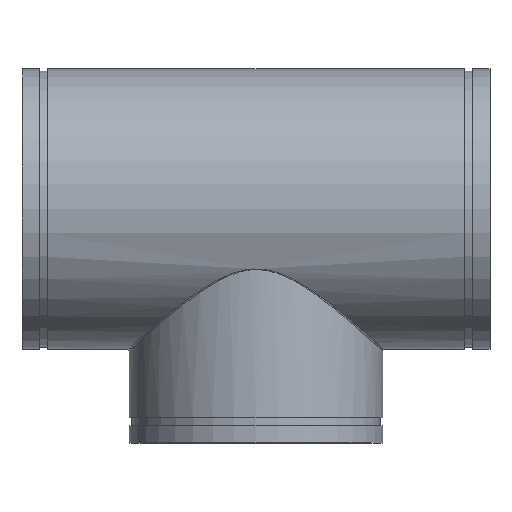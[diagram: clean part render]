
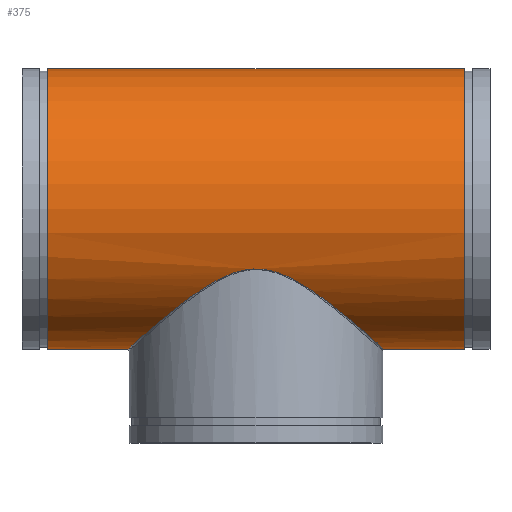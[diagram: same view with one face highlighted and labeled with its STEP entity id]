
A CAD part, top view. The second image highlights one B-rep face of the part: STEP entity #375.
In plain terms, the highlighted cylindrical face has radius 274.32 mm (diameter 548.64 mm), a full revolution.
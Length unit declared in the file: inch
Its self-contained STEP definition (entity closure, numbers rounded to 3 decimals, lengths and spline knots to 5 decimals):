
#54=FACE_BOUND('',#119,.T.);
#65=LINE('',#959,#76);
#76=VECTOR('',#483,10.8);
#87=CYLINDRICAL_SURFACE('',#415,10.8);
#98=FACE_OUTER_BOUND('',#118,.T.);
#118=EDGE_LOOP('',(#266,#267,#268,#269));
#119=EDGE_LOOP('',(#270));
#150=B_SPLINE_CURVE_WITH_KNOTS('',3,(#907,#908,#909,#910,#911,#912,#913,
#914,#915,#916,#917,#918,#919,#920,#921,#922,#923,#924,#925,#926,#927,#928,
#929,#930,#931,#932,#933,#934,#935,#936,#937,#938,#939,#940,#941,#942,#943,
#944,#945,#946,#947,#948,#949,#950,#951,#952,#953,#954),.UNSPECIFIED.,.T.,
 .F.,(4,1,1,1,1,1,1,1,1,1,1,1,1,1,1,1,1,1,1,1,1,1,1,1,1,1,1,1,1,1,1,1,1,
1,1,1,1,1,1,1,1,1,1,1,1,4),(-166.78583,-165.29667,-163.80751,
-160.82919,-157.85088,-154.87256,-148.91592,
-142.95928,-137.6645,-135.0171,-131.04601,
-127.07492,-123.10383,-119.13274,-115.16164,
-111.19055,-107.21946,-103.24837,-99.27728,
-95.30619,-91.3351,-87.36401,-84.71661,
-82.06922,-79.42182,-77.43628,-75.45073,
-71.47964,-67.50855,-63.53746,-55.59528,-51.62419,
-47.65309,-43.682,-39.71091,-35.73982,
-31.76873,-27.79764,-23.82655,-17.86991,-11.91327,
-8.93496,-5.95664,-2.97832,-1.48916,
0.),.UNSPECIFIED.);
#154=CIRCLE('',#416,10.8);
#155=CIRCLE('',#417,10.8);
#182=VERTEX_POINT('',#851);
#185=VERTEX_POINT('',#956);
#186=VERTEX_POINT('',#958);
#219=EDGE_CURVE('',#182,#182,#150,.T.);
#220=EDGE_CURVE('',#185,#185,#154,.T.);
#221=EDGE_CURVE('',#185,#186,#65,.T.);
#222=EDGE_CURVE('',#186,#186,#155,.T.);
#266=ORIENTED_EDGE('',*,*,#220,.T.);
#267=ORIENTED_EDGE('',*,*,#221,.T.);
#268=ORIENTED_EDGE('',*,*,#222,.T.);
#269=ORIENTED_EDGE('',*,*,#221,.F.);
#270=ORIENTED_EDGE('',*,*,#219,.F.);
#375=ADVANCED_FACE('',(#98,#54),#87,.T.);
#415=AXIS2_PLACEMENT_3D('',#955,#479,#480);
#416=AXIS2_PLACEMENT_3D('',#957,#481,#482);
#417=AXIS2_PLACEMENT_3D('',#960,#484,#485);
#479=DIRECTION('center_axis',(-1.,0.,0.));
#480=DIRECTION('ref_axis',(0.,-1.,0.));
#481=DIRECTION('center_axis',(1.,0.,0.));
#482=DIRECTION('ref_axis',(0.,-1.,0.));
#483=DIRECTION('',(1.,0.,0.));
#484=DIRECTION('center_axis',(-1.,0.,0.));
#485=DIRECTION('ref_axis',(0.,-1.,0.));
#851=CARTESIAN_POINT('',(0.,-4.61986,-9.76201));
#907=CARTESIAN_POINT('Ctrl Pts',(0.,-4.61986,
-9.76201));
#908=CARTESIAN_POINT('Ctrl Pts',(0.20198,-4.61986,-9.76201));
#909=CARTESIAN_POINT('Ctrl Pts',(0.60575,-4.64602,-9.7497));
#910=CARTESIAN_POINT('Ctrl Pts',(1.39813,-4.79628,-9.67744));
#911=CARTESIAN_POINT('Ctrl Pts',(2.33661,-5.13617,-9.50589));
#912=CARTESIAN_POINT('Ctrl Pts',(3.3731,-5.67887,-9.19485));
#913=CARTESIAN_POINT('Ctrl Pts',(4.65457,-6.49333,-8.65638));
#914=CARTESIAN_POINT('Ctrl Pts',(6.10046,-7.57757,-7.76458));
#915=CARTESIAN_POINT('Ctrl Pts',(7.55304,-8.77187,-6.3927));
#916=CARTESIAN_POINT('Ctrl Pts',(8.51913,-9.60381,-5.01258));
#917=CARTESIAN_POINT('Ctrl Pts',(9.17998,-10.18227,-3.6711));
#918=CARTESIAN_POINT('Ctrl Pts',(9.62279,-10.57482,-2.37168));
#919=CARTESIAN_POINT('Ctrl Pts',(9.88595,-10.80974,-0.8037));
#920=CARTESIAN_POINT('Ctrl Pts',(9.8859,-10.80974,0.80352));
#921=CARTESIAN_POINT('Ctrl Pts',(9.62291,-10.57488,2.37139));
#922=CARTESIAN_POINT('Ctrl Pts',(9.12452,-10.13321,3.83368));
#923=CARTESIAN_POINT('Ctrl Pts',(8.43165,-9.52751,5.15028));
#924=CARTESIAN_POINT('Ctrl Pts',(7.58296,-8.80128,6.30545));
#925=CARTESIAN_POINT('Ctrl Pts',(6.60837,-7.99423,7.29649));
#926=CARTESIAN_POINT('Ctrl Pts',(5.5268,-7.1431,8.12721));
#927=CARTESIAN_POINT('Ctrl Pts',(4.3423,-6.28571,8.80253));
#928=CARTESIAN_POINT('Ctrl Pts',(3.04742,-5.47811,9.32119));
#929=CARTESIAN_POINT('Ctrl Pts',(1.76867,-4.89086,9.63264));
#930=CARTESIAN_POINT('Ctrl Pts',(0.54307,-4.60992,9.76679));
#931=CARTESIAN_POINT('Ctrl Pts',(-0.54342,-4.61015,9.76671));
#932=CARTESIAN_POINT('Ctrl Pts',(-1.50608,-4.83031,9.66147));
#933=CARTESIAN_POINT('Ctrl Pts',(-2.32837,-5.14833,9.49622));
#934=CARTESIAN_POINT('Ctrl Pts',(-3.26281,-5.61205,9.23497));
#935=CARTESIAN_POINT('Ctrl Pts',(-4.34249,-6.28616,8.80242));
#936=CARTESIAN_POINT('Ctrl Pts',(-5.52682,-7.14283,8.12722));
#937=CARTESIAN_POINT('Ctrl Pts',(-6.9675,-8.27743,7.02053));
#938=CARTESIAN_POINT('Ctrl Pts',(-8.19959,-9.32517,5.58999));
#939=CARTESIAN_POINT('Ctrl Pts',(-9.12469,-10.13315,3.83386));
#940=CARTESIAN_POINT('Ctrl Pts',(-9.6226,-10.57472,2.37198));
#941=CARTESIAN_POINT('Ctrl Pts',(-9.88595,-10.80973,0.804));
#942=CARTESIAN_POINT('Ctrl Pts',(-9.88592,-10.80977,-0.80321));
#943=CARTESIAN_POINT('Ctrl Pts',(-9.62298,-10.57495,-2.37113));
#944=CARTESIAN_POINT('Ctrl Pts',(-9.12469,-10.13332,-3.83329));
#945=CARTESIAN_POINT('Ctrl Pts',(-8.43175,-9.52768,-5.15013));
#946=CARTESIAN_POINT('Ctrl Pts',(-7.44173,-8.68028,-6.49769));
#947=CARTESIAN_POINT('Ctrl Pts',(-6.10068,-7.57781,-7.76448));
#948=CARTESIAN_POINT('Ctrl Pts',(-4.65491,-6.49354,-8.65617));
#949=CARTESIAN_POINT('Ctrl Pts',(-3.37326,-5.67897,-9.19481));
#950=CARTESIAN_POINT('Ctrl Pts',(-2.33699,-5.13633,-9.50578));
#951=CARTESIAN_POINT('Ctrl Pts',(-1.39813,-4.79627,-9.67746));
#952=CARTESIAN_POINT('Ctrl Pts',(-0.60575,-4.64602,-9.74969));
#953=CARTESIAN_POINT('Ctrl Pts',(-0.20198,-4.61986,-9.76201));
#954=CARTESIAN_POINT('Ctrl Pts',(0.,-4.61986,
-9.76201));
#955=CARTESIAN_POINT('Origin',(18.,0.,0.));
#956=CARTESIAN_POINT('',(-16.035,10.8,0.));
#957=CARTESIAN_POINT('Origin',(-16.035,0.,0.));
#958=CARTESIAN_POINT('',(16.035,10.8,0.));
#959=CARTESIAN_POINT('',(18.,10.8,0.));
#960=CARTESIAN_POINT('Origin',(16.035,0.,0.));
